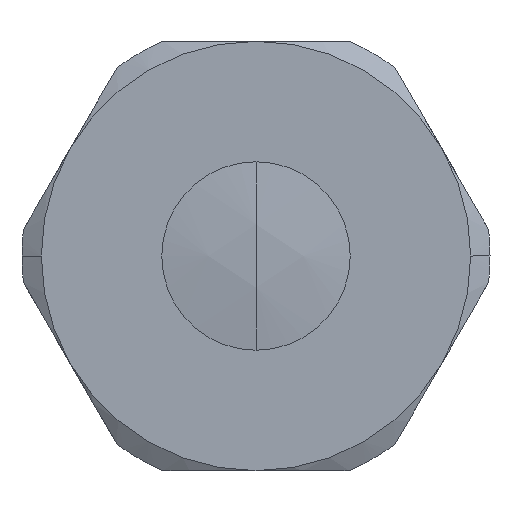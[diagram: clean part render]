
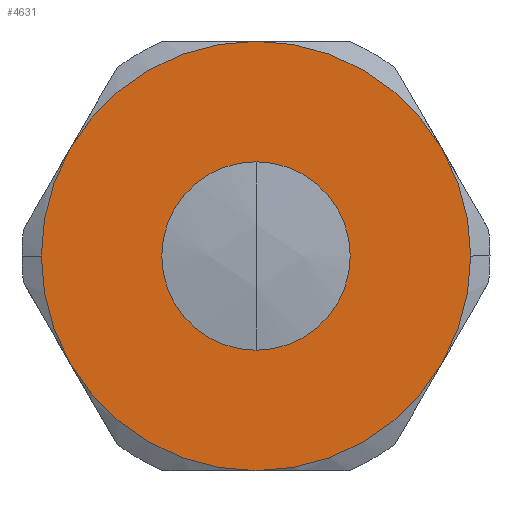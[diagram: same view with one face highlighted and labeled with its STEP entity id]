
A CAD part, left-side view. The second image highlights one B-rep face of the part: STEP entity #4631.
In plain terms, the highlighted planar face has unit normal (-1, 0, 0).
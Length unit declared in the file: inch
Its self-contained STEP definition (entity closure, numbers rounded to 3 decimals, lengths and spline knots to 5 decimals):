
#135=CARTESIAN_POINT('',(0.,0.2195,2.0));
#136=VERTEX_POINT('',#135);
#143=CARTESIAN_POINT('',(0.,-0.2195,2.0));
#144=VERTEX_POINT('',#143);
#145=CARTESIAN_POINT('',(0.,0.,2.0));
#146=DIRECTION('',(1.0,0.0,0.0));
#147=DIRECTION('',(0.0,1.0,0.0));
#148=AXIS2_PLACEMENT_3D('',#145,#146,#147);
#149=CIRCLE('',#148,0.2195);
#150=EDGE_CURVE('',#144,#136,#149,.T.);
#176=CARTESIAN_POINT('',(0.,-0.5,2.0));
#177=VERTEX_POINT('',#176);
#186=CARTESIAN_POINT('',(0.,-0.43301,1.75));
#187=VERTEX_POINT('',#186);
#188=CARTESIAN_POINT('',(0.,0.,2.0));
#189=DIRECTION('',(-1.0,0.0,0.0));
#190=DIRECTION('',(0.0,1.0,0.0));
#191=AXIS2_PLACEMENT_3D('',#188,#189,#190);
#192=CIRCLE('',#191,0.5);
#193=EDGE_CURVE('',#187,#177,#192,.T.);
#227=CARTESIAN_POINT('',(0.,0.5,2.));
#228=VERTEX_POINT('',#227);
#244=CARTESIAN_POINT('',(0.,0.43301,1.75));
#245=VERTEX_POINT('',#244);
#259=CARTESIAN_POINT('',(0.,0.,2.0));
#260=DIRECTION('',(-1.0,0.0,0.0));
#261=DIRECTION('',(0.0,1.0,0.0));
#262=AXIS2_PLACEMENT_3D('',#259,#260,#261);
#263=CIRCLE('',#262,0.5);
#264=EDGE_CURVE('',#228,#245,#263,.T.);
#4073=CARTESIAN_POINT('',(0.,-0.43301,2.25));
#4074=VERTEX_POINT('',#4073);
#4213=CARTESIAN_POINT('',(0.,0.,1.5));
#4214=VERTEX_POINT('',#4213);
#4356=CARTESIAN_POINT('',(0.,0.,2.5));
#4357=VERTEX_POINT('',#4356);
#4400=CARTESIAN_POINT('',(0.,0.43301,2.25));
#4401=VERTEX_POINT('',#4400);
#4500=CARTESIAN_POINT('',(0.,0.,2.0));
#4501=DIRECTION('',(-1.0,0.0,0.0));
#4502=DIRECTION('',(0.0,1.0,0.0));
#4503=AXIS2_PLACEMENT_3D('',#4500,#4501,#4502);
#4504=CIRCLE('',#4503,0.5);
#4505=EDGE_CURVE('',#4074,#4357,#4504,.T.);
#4519=CARTESIAN_POINT('',(0.,0.,2.0));
#4520=DIRECTION('',(-1.0,0.0,0.0));
#4521=DIRECTION('',(0.0,1.0,0.0));
#4522=AXIS2_PLACEMENT_3D('',#4519,#4520,#4521);
#4523=CIRCLE('',#4522,0.5);
#4524=EDGE_CURVE('',#4357,#4401,#4523,.T.);
#4538=CARTESIAN_POINT('',(0.,0.,2.0));
#4539=DIRECTION('',(-1.0,0.0,0.0));
#4540=DIRECTION('',(0.0,1.0,0.0));
#4541=AXIS2_PLACEMENT_3D('',#4538,#4539,#4540);
#4542=CIRCLE('',#4541,0.5);
#4543=EDGE_CURVE('',#4401,#228,#4542,.T.);
#4559=CARTESIAN_POINT('',(0.,0.,2.0));
#4560=DIRECTION('',(-1.0,0.0,0.0));
#4561=DIRECTION('',(0.0,1.0,0.0));
#4562=AXIS2_PLACEMENT_3D('',#4559,#4560,#4561);
#4563=CIRCLE('',#4562,0.5);
#4564=EDGE_CURVE('',#245,#4214,#4563,.T.);
#4578=CARTESIAN_POINT('',(0.,0.,2.0));
#4579=DIRECTION('',(-1.0,0.0,0.0));
#4580=DIRECTION('',(0.0,1.0,0.0));
#4581=AXIS2_PLACEMENT_3D('',#4578,#4579,#4580);
#4582=CIRCLE('',#4581,0.5);
#4583=EDGE_CURVE('',#4214,#187,#4582,.T.);
#4596=CARTESIAN_POINT('',(0.,0.,2.0));
#4597=DIRECTION('',(-1.0,0.0,0.0));
#4598=DIRECTION('',(0.0,1.0,0.0));
#4599=AXIS2_PLACEMENT_3D('',#4596,#4597,#4598);
#4600=CIRCLE('',#4599,0.5);
#4601=EDGE_CURVE('',#177,#4074,#4600,.T.);
#4606=CARTESIAN_POINT('',(0.,0.,2.));
#4607=DIRECTION('',(1.0,0.0,0.0));
#4608=DIRECTION('',(0.0,0.0,-1.0));
#4609=AXIS2_PLACEMENT_3D('',#4606,#4607,#4608);
#4610=PLANE('',#4609);
#4611=ORIENTED_EDGE('',*,*,#4505,.T.);
#4612=ORIENTED_EDGE('',*,*,#4524,.T.);
#4613=ORIENTED_EDGE('',*,*,#4543,.T.);
#4614=ORIENTED_EDGE('',*,*,#264,.T.);
#4615=ORIENTED_EDGE('',*,*,#4564,.T.);
#4616=ORIENTED_EDGE('',*,*,#4583,.T.);
#4617=ORIENTED_EDGE('',*,*,#193,.T.);
#4618=ORIENTED_EDGE('',*,*,#4601,.T.);
#4619=EDGE_LOOP('',(#4611,#4612,#4613,#4614,#4615,#4616,#4617,#4618));
#4620=FACE_OUTER_BOUND('',#4619,.T.);
#4621=CARTESIAN_POINT('',(0.,0.,2.0));
#4622=DIRECTION('',(1.0,0.0,0.0));
#4623=DIRECTION('',(0.0,1.0,0.0));
#4624=AXIS2_PLACEMENT_3D('',#4621,#4622,#4623);
#4625=CIRCLE('',#4624,0.2195);
#4626=EDGE_CURVE('',#136,#144,#4625,.T.);
#4627=ORIENTED_EDGE('',*,*,#4626,.T.);
#4628=ORIENTED_EDGE('',*,*,#150,.T.);
#4629=EDGE_LOOP('',(#4627,#4628));
#4630=FACE_BOUND('',#4629,.T.);
#4631=ADVANCED_FACE('',(#4620,#4630),#4610,.F.);
